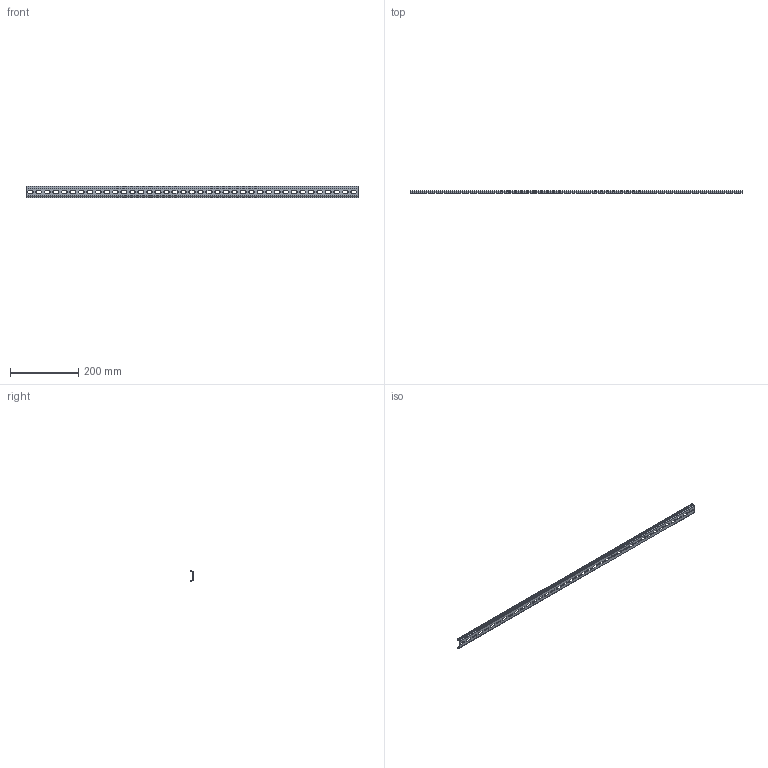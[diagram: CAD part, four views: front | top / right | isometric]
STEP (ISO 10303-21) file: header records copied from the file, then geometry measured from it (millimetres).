
FILE_DESCRIPTION (( 'STEP AP203' ), '1' );
FILE_NAME ('DIN 07.975 DIN-ðåéêà.STEP', '2023-10-27T13:51:54', ( '' ), ( '' ), 'SwSTEP 2.0', 'SolidWorks 2019', '' );
FILE_SCHEMA (( 'CONFIG_CONTROL_DESIGN' ));
Length unit declared in the file: millimetre
Products named in the file (1): DIN 07.975 DIN-ðåéêà
Bounding box: 975 x 7.5 x 35 mm (x, y, z)
Volume: 47383.5 mm3; surface area: 83424.8 mm2
Topology: 1 solids, 1 shells, 194 faces, 544 edges, 352 vertices
Faces by surface type: plane 108, cylinder 86
Entity records: 6477 total; most frequent: DIRECTION 1106, CARTESIAN_POINT 1091, ORIENTED_EDGE 1088, EDGE_CURVE 544, LINE 372, VECTOR 372, AXIS2_PLACEMENT_3D 367, VERTEX_POINT 352
